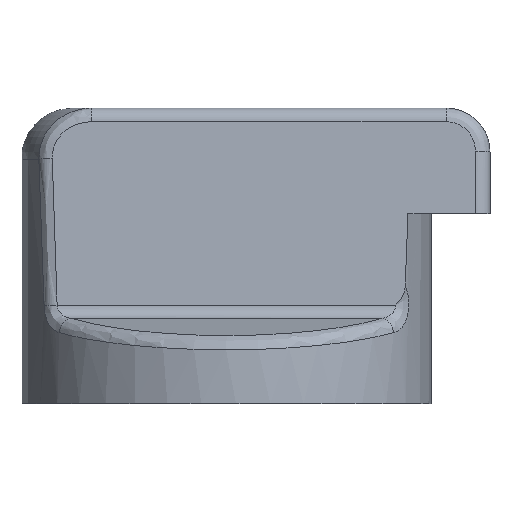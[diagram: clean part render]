
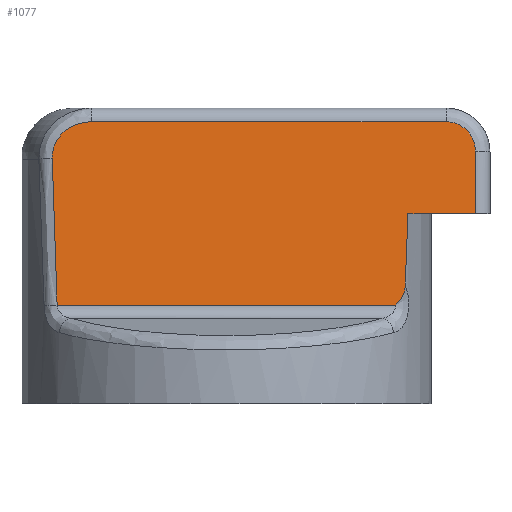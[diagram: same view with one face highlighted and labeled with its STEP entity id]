
A CAD part, front view. The second image highlights one B-rep face of the part: STEP entity #1077.
In plain terms, the highlighted planar face has unit normal (0, -0.998, 0.07).
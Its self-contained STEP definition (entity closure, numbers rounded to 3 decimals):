
#12 = CARTESIAN_POINT ( 'NONE',  ( 15., -6.065, 19.27 ) ) ;
#66 = DIRECTION ( 'NONE',  ( 0., 0.07, 0.998 ) ) ;
#111 = CARTESIAN_POINT ( 'NONE',  ( 12.337, -6.62, 11.337 ) ) ;
#122 = CARTESIAN_POINT ( 'NONE',  ( -11.56, -6.148, 18.082 ) ) ;
#141 = CARTESIAN_POINT ( 'NONE',  ( -11.349, -6.128, 18.363 ) ) ;
#201 = EDGE_CURVE ( 'NONE', #1993, #2626, #403, .T. ) ;
#234 = CARTESIAN_POINT ( 'NONE',  ( -14.001, -6.503, 13. ) ) ;
#239 = CARTESIAN_POINT ( 'NONE',  ( 17., -6.205, 17.27 ) ) ;
#242 = ORIENTED_EDGE ( 'NONE', *, *, #1676, .T. ) ;
#261 = DIRECTION ( 'NONE',  ( 0., 0.07, 0.998 ) ) ;
#273 = ORIENTED_EDGE ( 'NONE', *, *, #1542, .F. ) ;
#277 = VERTEX_POINT ( 'NONE', #1625 ) ;
#280 = VERTEX_POINT ( 'NONE', #958 ) ;
#286 = LINE ( 'NONE', #234, #825 ) ;
#290 = DIRECTION ( 'NONE',  ( 0., 0.998, -0.07 ) ) ;
#291 = LINE ( 'NONE', #1168, #2397 ) ;
#337 = LINE ( 'NONE', #822, #1228 ) ;
#363 = CARTESIAN_POINT ( 'NONE',  ( -11.901, -6.228, 16.943 ) ) ;
#368 = CARTESIAN_POINT ( 'NONE',  ( 11.905, -6.915, 7.117 ) ) ;
#371 = CARTESIAN_POINT ( 'NONE',  ( -9.877, -6.07, 19.201 ) ) ;
#387 = ORIENTED_EDGE ( 'NONE', *, *, #1010, .T. ) ;
#403 = LINE ( 'NONE', #1405, #1089 ) ;
#427 = CARTESIAN_POINT ( 'NONE',  ( -11.896, -6.24, 16.77 ) ) ;
#478 = VERTEX_POINT ( 'NONE', #2830 ) ;
#545 = CARTESIAN_POINT ( 'NONE',  ( 17., -6.205, 17.27 ) ) ;
#596 = CARTESIAN_POINT ( 'NONE',  ( -10.525, -6.086, 18.974 ) ) ;
#693 = ORIENTED_EDGE ( 'NONE', *, *, #1548, .T. ) ;
#742 = EDGE_CURVE ( 'NONE', #478, #2521, #291, .T. ) ;
#745 = ORIENTED_EDGE ( 'NONE', *, *, #742, .T. ) ;
#822 = CARTESIAN_POINT ( 'NONE',  ( 12.128, -6.94, 6.751 ) ) ;
#825 = VECTOR ( 'NONE', #1369, 1000. ) ;
#881 = VERTEX_POINT ( 'NONE', #2804 ) ;
#958 = CARTESIAN_POINT ( 'NONE',  ( 11.562, -6.94, 6.751 ) ) ;
#972 = B_SPLINE_CURVE_WITH_KNOTS ( 'NONE', 3,
 ( #2835, #2647, #368, #2617, #2166, #2377, #2846, #1067 ),
 .UNSPECIFIED., .F., .F.,
 ( 4, 2, 2, 4 ),
 ( 0., 0.001, 0.001, 0.001 ),
 .UNSPECIFIED. ) ;
#1010 = EDGE_CURVE ( 'NONE', #2521, #1993, #1662, .T. ) ;
#1031 =( BOUNDED_CURVE ( )  B_SPLINE_CURVE ( 3, ( #1725, #111, #2148, #2390 ),
 .UNSPECIFIED., .F., .F. ) 
 B_SPLINE_CURVE_WITH_KNOTS ( ( 4, 4 ),
 ( 5.195, 5.224 ),
 .UNSPECIFIED. ) 
 CURVE ( )  GEOMETRIC_REPRESENTATION_ITEM ( )  RATIONAL_B_SPLINE_CURVE ( ( 1., 1., 1., 1. ) ) 
 REPRESENTATION_ITEM ( '' )  );
#1042 = CARTESIAN_POINT ( 'NONE',  ( -11.768, -6.181, 17.614 ) ) ;
#1067 = CARTESIAN_POINT ( 'NONE',  ( 12.21, -6.85, 8.05 ) ) ;
#1077 = ADVANCED_FACE ( 'NONE', ( #1799 ), #2756, .F. ) ;
#1079 = CARTESIAN_POINT ( 'NONE',  ( -9.196, -6.065, 19.27 ) ) ;
#1088 = CARTESIAN_POINT ( 'NONE',  ( -11.896, -6.24, 16.77 ) ) ;
#1089 = VECTOR ( 'NONE', #2071, 1000. ) ;
#1119 = CARTESIAN_POINT ( 'NONE',  ( 15., -6.065, 19.27 ) ) ;
#1138 = CARTESIAN_POINT ( 'NONE',  ( 16.172, -6.065, 19.27 ) ) ;
#1168 = CARTESIAN_POINT ( 'NONE',  ( 17., -6.21, 17.2 ) ) ;
#1228 = VECTOR ( 'NONE', #1492, 1000. ) ;
#1268 = CARTESIAN_POINT ( 'NONE',  ( -11.887, -6.216, 17.113 ) ) ;
#1277 = CARTESIAN_POINT ( 'NONE',  ( -11.792, -6.477, 13.383 ) ) ;
#1290 = CARTESIAN_POINT ( 'NONE',  ( -10.369, -6.081, 19.045 ) ) ;
#1369 = DIRECTION ( 'NONE',  ( 1., 0., 0. ) ) ;
#1405 = CARTESIAN_POINT ( 'NONE',  ( -8.617, -6.065, 19.27 ) ) ;
#1487 = CARTESIAN_POINT ( 'NONE',  ( -11.896, -6.24, 16.77 ) ) ;
#1492 = DIRECTION ( 'NONE',  ( 1., 0., 0. ) ) ;
#1542 = EDGE_CURVE ( 'NONE', #881, #277, #1031, .T. ) ;
#1548 = EDGE_CURVE ( 'NONE', #2626, #1642, #1901, .T. ) ;
#1625 = CARTESIAN_POINT ( 'NONE',  ( 12.21, -6.85, 8.05 ) ) ;
#1642 = VERTEX_POINT ( 'NONE', #427 ) ;
#1662 =( BOUNDED_CURVE ( )  B_SPLINE_CURVE ( 3, ( #239, #2462, #1138, #12 ),
 .UNSPECIFIED., .F., .F. ) 
 B_SPLINE_CURVE_WITH_KNOTS ( ( 4, 4 ),
 ( 1.571, 3.142 ),
 .UNSPECIFIED. ) 
 CURVE ( )  GEOMETRIC_REPRESENTATION_ITEM ( )  RATIONAL_B_SPLINE_CURVE ( ( 1., 0.805, 0.805, 1. ) ) 
 REPRESENTATION_ITEM ( '' )  );
#1676 = EDGE_CURVE ( 'NONE', #881, #478, #286, .T. ) ;
#1725 = CARTESIAN_POINT ( 'NONE',  ( 12.398, -6.503, 13. ) ) ;
#1732 = CARTESIAN_POINT ( 'NONE',  ( -9.54, -6.066, 19.256 ) ) ;
#1799 = FACE_OUTER_BOUND ( 'NONE', #2876, .T. ) ;
#1901 = B_SPLINE_CURVE_WITH_KNOTS ( 'NONE', 3,
 ( #2609, #1970, #1732, #371, #2619, #1290, #596, #2849, #2168, #141, #122, #1042, #2599, #1268, #363, #1487 ),
 .UNSPECIFIED., .F., .F.,
 ( 4, 2, 2, 2, 2, 2, 2, 4 ),
 ( 0., 0.001, 0.001, 0.002, 0.002, 0.003, 0.004, 0.004 ),
 .UNSPECIFIED. ) ;
#1962 = CARTESIAN_POINT ( 'NONE',  ( -11.562, -6.94, 6.751 ) ) ;
#1970 = CARTESIAN_POINT ( 'NONE',  ( -9.369, -6.065, 19.27 ) ) ;
#1993 = VERTEX_POINT ( 'NONE', #1119 ) ;
#2071 = DIRECTION ( 'NONE',  ( -1., 0., 0. ) ) ;
#2130 =( BOUNDED_CURVE ( )  B_SPLINE_CURVE ( 3, ( #1088, #1277, #2188, #1962 ),
 .UNSPECIFIED., .F., .F. ) 
 B_SPLINE_CURVE_WITH_KNOTS ( ( 4, 4 ),
 ( 5.127, 5.187 ),
 .UNSPECIFIED. ) 
 CURVE ( )  GEOMETRIC_REPRESENTATION_ITEM ( )  RATIONAL_B_SPLINE_CURVE ( ( 1., 1., 1., 1. ) ) 
 REPRESENTATION_ITEM ( '' )  );
#2148 = CARTESIAN_POINT ( 'NONE',  ( 12.274, -6.735, 9.687 ) ) ;
#2152 = VERTEX_POINT ( 'NONE', #2485 ) ;
#2166 = CARTESIAN_POINT ( 'NONE',  ( 12.121, -6.884, 7.563 ) ) ;
#2168 = CARTESIAN_POINT ( 'NONE',  ( -10.964, -6.105, 18.702 ) ) ;
#2188 = CARTESIAN_POINT ( 'NONE',  ( -11.68, -6.71, 10.042 ) ) ;
#2196 = AXIS2_PLACEMENT_3D ( 'NONE', #2542, #290, #66 ) ;
#2210 = ORIENTED_EDGE ( 'NONE', *, *, #2620, .T. ) ;
#2243 = ORIENTED_EDGE ( 'NONE', *, *, #2911, .T. ) ;
#2350 = ORIENTED_EDGE ( 'NONE', *, *, #201, .T. ) ;
#2377 = CARTESIAN_POINT ( 'NONE',  ( 12.186, -6.867, 7.802 ) ) ;
#2390 = CARTESIAN_POINT ( 'NONE',  ( 12.21, -6.85, 8.05 ) ) ;
#2397 = VECTOR ( 'NONE', #261, 1000. ) ;
#2462 = CARTESIAN_POINT ( 'NONE',  ( 17., -6.123, 18.441 ) ) ;
#2485 = CARTESIAN_POINT ( 'NONE',  ( -11.562, -6.94, 6.751 ) ) ;
#2521 = VERTEX_POINT ( 'NONE', #545 ) ;
#2542 = CARTESIAN_POINT ( 'NONE',  ( -35.541, -6., 20.2 ) ) ;
#2599 = CARTESIAN_POINT ( 'NONE',  ( -11.821, -6.192, 17.447 ) ) ;
#2609 = CARTESIAN_POINT ( 'NONE',  ( -9.196, -6.065, 19.27 ) ) ;
#2617 = CARTESIAN_POINT ( 'NONE',  ( 12.075, -6.892, 7.446 ) ) ;
#2619 = CARTESIAN_POINT ( 'NONE',  ( -10.044, -6.073, 19.159 ) ) ;
#2620 = EDGE_CURVE ( 'NONE', #1642, #2152, #2130, .T. ) ;
#2626 = VERTEX_POINT ( 'NONE', #1079 ) ;
#2642 = EDGE_CURVE ( 'NONE', #280, #277, #972, .T. ) ;
#2647 = CARTESIAN_POINT ( 'NONE',  ( 11.744, -6.929, 6.92 ) ) ;
#2706 = ORIENTED_EDGE ( 'NONE', *, *, #2642, .T. ) ;
#2756 = PLANE ( 'NONE',  #2196 ) ;
#2804 = CARTESIAN_POINT ( 'NONE',  ( 12.398, -6.503, 13. ) ) ;
#2830 = CARTESIAN_POINT ( 'NONE',  ( 17., -6.503, 13. ) ) ;
#2835 = CARTESIAN_POINT ( 'NONE',  ( 11.562, -6.94, 6.751 ) ) ;
#2846 = CARTESIAN_POINT ( 'NONE',  ( 12.205, -6.858, 7.925 ) ) ;
#2849 = CARTESIAN_POINT ( 'NONE',  ( -10.822, -6.098, 18.803 ) ) ;
#2876 = EDGE_LOOP ( 'NONE', ( #2350, #693, #2210, #2243, #2706, #273, #242, #745, #387 ) ) ;
#2911 = EDGE_CURVE ( 'NONE', #2152, #280, #337, .T. ) ;
